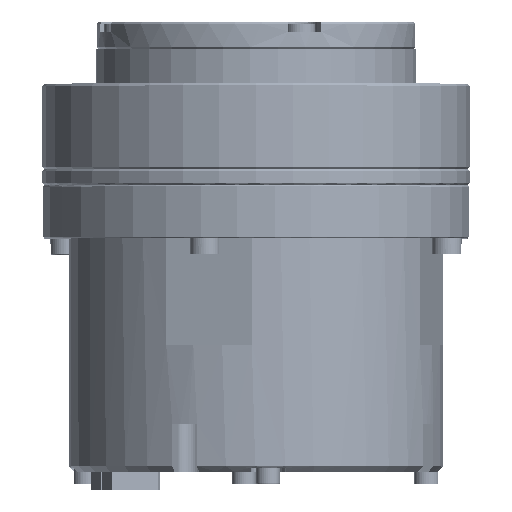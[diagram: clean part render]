
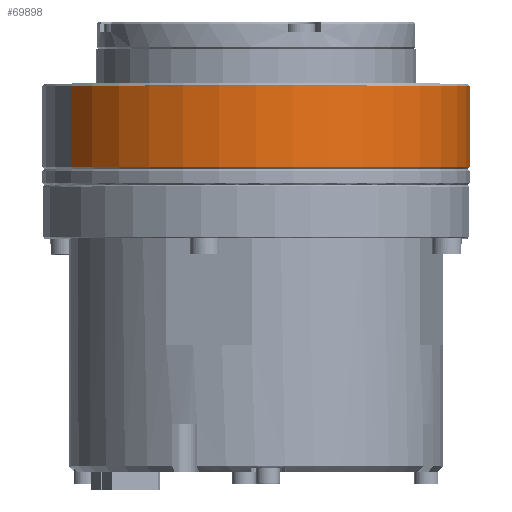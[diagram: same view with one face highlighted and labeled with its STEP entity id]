
A CAD part, top view. The second image highlights one B-rep face of the part: STEP entity #69898.
In plain terms, the highlighted cylindrical face has radius 40 mm (diameter 80 mm), a partial arc.
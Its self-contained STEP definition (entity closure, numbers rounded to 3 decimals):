
#3731 = VECTOR ( 'NONE', #107916, 1000. ) ;
#4061 = VERTEX_POINT ( 'NONE', #104649 ) ;
#6762 = ORIENTED_EDGE ( 'NONE', *, *, #119948, .T. ) ;
#10830 = LINE ( 'NONE', #20299, #3731 ) ;
#12880 = CARTESIAN_POINT ( 'NONE',  ( 0., 32.3, 0. ) ) ;
#17257 = CARTESIAN_POINT ( 'NONE',  ( 0., 47.5, 0. ) ) ;
#17325 = CARTESIAN_POINT ( 'NONE',  ( -34.641, 47.5, 20. ) ) ;
#20299 = CARTESIAN_POINT ( 'NONE',  ( 34.641, 7.747, -20. ) ) ;
#20692 = AXIS2_PLACEMENT_3D ( 'NONE', #12880, #116911, #118793 ) ;
#20997 = CYLINDRICAL_SURFACE ( 'NONE', #30487, 40. ) ;
#22265 = DIRECTION ( 'NONE',  ( -0.866, 0., 0.5 ) ) ;
#23544 = LINE ( 'NONE', #90992, #44169 ) ;
#26529 = EDGE_LOOP ( 'NONE', ( #106059, #120698, #6762, #123933, #111825 ) ) ;
#27213 = DIRECTION ( 'NONE',  ( -0.866, 0., 0.5 ) ) ;
#30487 = AXIS2_PLACEMENT_3D ( 'NONE', #78983, #60697, #22265 ) ;
#35287 = VERTEX_POINT ( 'NONE', #117527 ) ;
#37394 = DIRECTION ( 'NONE',  ( 0., -1., 0. ) ) ;
#41274 = EDGE_CURVE ( 'NONE', #35287, #4061, #64919, .T. ) ;
#44169 = VECTOR ( 'NONE', #81529, 1000. ) ;
#46714 = CARTESIAN_POINT ( 'NONE',  ( 0., 32.3, 0. ) ) ;
#50562 = VERTEX_POINT ( 'NONE', #95124 ) ;
#51177 = CIRCLE ( 'NONE', #121661, 40. ) ;
#51208 = FACE_OUTER_BOUND ( 'NONE', #26529, .T. ) ;
#57554 = DIRECTION ( 'NONE',  ( -0.866, 0., 0.5 ) ) ;
#58728 = CARTESIAN_POINT ( 'NONE',  ( 34.641, 47.5, -20. ) ) ;
#60697 = DIRECTION ( 'NONE',  ( 0., -1., 0. ) ) ;
#62237 = AXIS2_PLACEMENT_3D ( 'NONE', #46714, #65039, #27213 ) ;
#64919 = CIRCLE ( 'NONE', #20692, 40. ) ;
#65039 = DIRECTION ( 'NONE',  ( 0., 1., 0. ) ) ;
#69898 = ADVANCED_FACE ( 'NONE', ( #51208 ), #20997, .T. ) ;
#72294 = CIRCLE ( 'NONE', #62237, 40. ) ;
#78983 = CARTESIAN_POINT ( 'NONE',  ( 0., 7.747, 0. ) ) ;
#81529 = DIRECTION ( 'NONE',  ( 0., -1., 0. ) ) ;
#90214 = EDGE_CURVE ( 'NONE', #115740, #118789, #51177, .T. ) ;
#90992 = CARTESIAN_POINT ( 'NONE',  ( -34.641, 7.747, 20. ) ) ;
#95124 = CARTESIAN_POINT ( 'NONE',  ( 34.641, 32.3, -20. ) ) ;
#102685 = EDGE_CURVE ( 'NONE', #4061, #50562, #72294, .T. ) ;
#104649 = CARTESIAN_POINT ( 'NONE',  ( 20., 32.3, 34.641 ) ) ;
#106059 = ORIENTED_EDGE ( 'NONE', *, *, #115681, .F. ) ;
#107916 = DIRECTION ( 'NONE',  ( 0., -1., 0. ) ) ;
#111825 = ORIENTED_EDGE ( 'NONE', *, *, #102685, .T. ) ;
#115681 = EDGE_CURVE ( 'NONE', #115740, #50562, #10830, .T. ) ;
#115740 = VERTEX_POINT ( 'NONE', #58728 ) ;
#116911 = DIRECTION ( 'NONE',  ( 0., 1., 0. ) ) ;
#117527 = CARTESIAN_POINT ( 'NONE',  ( -34.641, 32.3, 20. ) ) ;
#118789 = VERTEX_POINT ( 'NONE', #17325 ) ;
#118793 = DIRECTION ( 'NONE',  ( -0.866, 0., 0.5 ) ) ;
#119948 = EDGE_CURVE ( 'NONE', #118789, #35287, #23544, .T. ) ;
#120698 = ORIENTED_EDGE ( 'NONE', *, *, #90214, .T. ) ;
#121661 = AXIS2_PLACEMENT_3D ( 'NONE', #17257, #37394, #57554 ) ;
#123933 = ORIENTED_EDGE ( 'NONE', *, *, #41274, .T. ) ;
